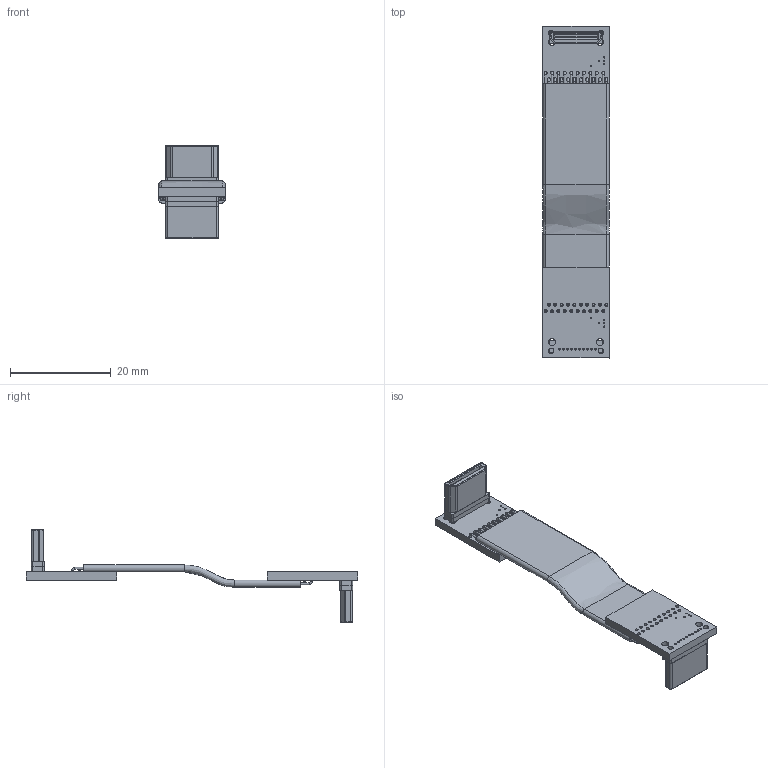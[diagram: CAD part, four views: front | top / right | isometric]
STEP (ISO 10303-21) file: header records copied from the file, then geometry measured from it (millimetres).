
FILE_DESCRIPTION(('Open CASCADE Model'),'2;1');
FILE_NAME('Open CASCADE Shape Model','2022-06-09T21:13:52',('Author'),( 'Open CASCADE'),'Open CASCADE STEP processor 6.8','Open CASCADE 6.8' ,'Unknown');
FILE_SCHEMA(('AUTOMOTIVE_DESIGN { 1 0 10303 214 1 1 1 1 }'));
Length unit declared in the file: millimetre
Products named in the file (48): PCB; Board; Open CASCADE STEP translator 6.8 15.1.1; _1; HDMI_type_C1; miniHDMI-p_RGB10275833; Open CASCADE STEP translator 6.8 15.3; Free-Models; cable20-A2C3
Assembly tree (51 placements, depth 3):
  PCB
    Board
      Open CASCADE STEP translator 6.8 15.1.1
    _1
      HDMI_type_C1
      miniHDMI-p_RGB10275833  x2
    Open CASCADE STEP translator 6.8 15.3
      HDMI_type_C1
      miniHDMI-p_RGB10275833  x2
    Free-Models
      cable20-A2C3
      cable20-A2C3
      cable20-A2C3
      cable20-A2C3
      cable20-A2C3
      cable20-A2C3
      cable20-A2C3
      cable20-A2C3
      cable20-A2C3
      cable20-A2C3
      cable20-A2C3
      cable20-A2C3
      cable20-A2C3
      cable20-A2C3
      cable20-A2C3
      cable20-A2C3
      cable20-A2C3
      cable20-A2C3
      cable20-A2C3
      cable20-A2C3
      cable20-A2C3
      cable20-A2C3
      cable20-A2C3
      cable20-A2C3
      cable20-A2C3
      cable20-A2C3
      cable20-A2C3
      cable20-A2C3
      cable20-A2C3
      cable20-A2C3
      cable20-A2C3
      cable20-A2C3
      cable20-A2C3
      cable20-A2C3
      cable20-A2C3
      cable20-A2C3
      cable20-A2C3
      cable20-A2C3
      cable20-A2C3
      cable20-A2C3
Bounding box: 13.23 x 65.96 x 18.4 mm (x, y, z)
Volume: 1749.9 mm3; surface area: 4782.7 mm2
Topology: 48 solids, 48 shells, 712 faces, 1720 edges, 1106 vertices
Faces by surface type: plane 352, cylinder 262, torus 52, bspline 46
Full cylindrical faces by diameter (mm): 0.254 x10, 0.4 x116, 0.404 x2, 0.405 x2, 0.6 x40, 1.1 x4, 1.4 x4
Entity records: 21986 total; most frequent: CARTESIAN_POINT 5143, DIRECTION 2522, ORIENTED_EDGE 2408, EDGE_CURVE 1204, AXIS2_PLACEMENT_3D 995, VERTEX_POINT 764, FACE_BOUND 728, EDGE_LOOP 728
